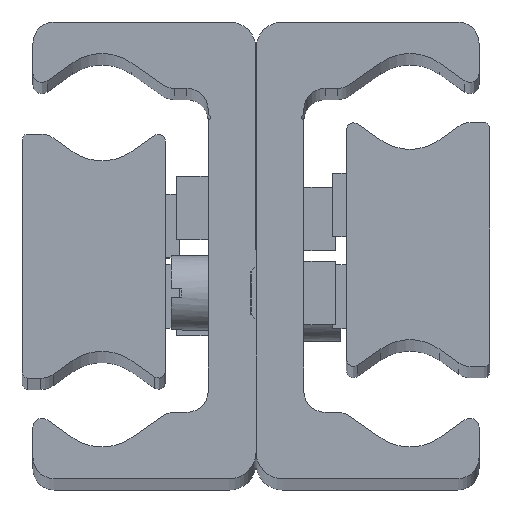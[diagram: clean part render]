
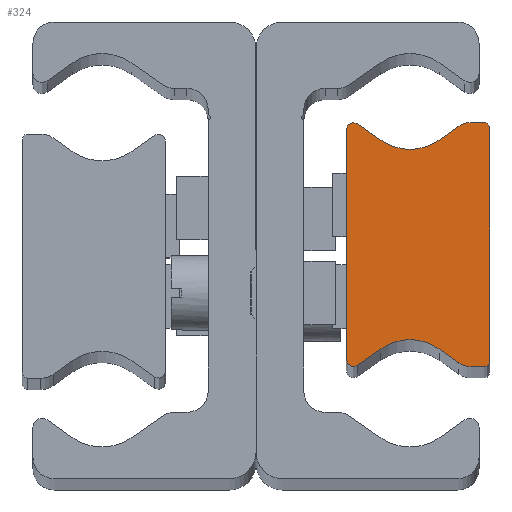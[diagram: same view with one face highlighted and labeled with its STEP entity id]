
A CAD part, top view. The second image highlights one B-rep face of the part: STEP entity #324.
In plain terms, the highlighted planar face has unit normal (0, 0, 1) as drawn and (0, 0, -1) by its records, which use the part's own axes.
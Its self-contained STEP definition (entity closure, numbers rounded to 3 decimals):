
#324 = ADVANCED_FACE( '', ( #725 ), #726, .F. );
#725 = FACE_OUTER_BOUND( '', #1287, .T. );
#726 = PLANE( '', #1288 );
#1287 = EDGE_LOOP( '', ( #2000, #2001, #2002, #2003, #2004, #2005, #2006, #2007, #2008, #2009, #2010, #2011, #2012, #2013, #2014, #2015 ) );
#1288 = AXIS2_PLACEMENT_3D( '', #2016, #2017, #2018 );
#2000 = ORIENTED_EDGE( '', *, *, #3135, .F. );
#2001 = ORIENTED_EDGE( '', *, *, #3136, .F. );
#2002 = ORIENTED_EDGE( '', *, *, #2984, .F. );
#2003 = ORIENTED_EDGE( '', *, *, #3137, .F. );
#2004 = ORIENTED_EDGE( '', *, *, #3138, .F. );
#2005 = ORIENTED_EDGE( '', *, *, #3001, .T. );
#2006 = ORIENTED_EDGE( '', *, *, #3139, .F. );
#2007 = ORIENTED_EDGE( '', *, *, #3140, .F. );
#2008 = ORIENTED_EDGE( '', *, *, #3141, .F. );
#2009 = ORIENTED_EDGE( '', *, *, #3142, .F. );
#2010 = ORIENTED_EDGE( '', *, *, #3143, .F. );
#2011 = ORIENTED_EDGE( '', *, *, #3144, .T. );
#2012 = ORIENTED_EDGE( '', *, *, #3145, .F. );
#2013 = ORIENTED_EDGE( '', *, *, #3146, .F. );
#2014 = ORIENTED_EDGE( '', *, *, #3147, .F. );
#2015 = ORIENTED_EDGE( '', *, *, #3148, .F. );
#2016 = CARTESIAN_POINT( '', ( 0.5, -11., -610. ) );
#2017 = DIRECTION( '', ( 0., 0., 1. ) );
#2018 = DIRECTION( '', ( 1., 0., 0. ) );
#2984 = EDGE_CURVE( '', #3474, #3476, #3477, .T. );
#3001 = EDGE_CURVE( '', #3505, #3503, #3506, .T. );
#3135 = EDGE_CURVE( '', #3732, #3733, #3734, .T. );
#3136 = EDGE_CURVE( '', #3476, #3732, #3735, .T. );
#3137 = EDGE_CURVE( '', #3736, #3474, #3737, .T. );
#3138 = EDGE_CURVE( '', #3505, #3736, #3738, .T. );
#3139 = EDGE_CURVE( '', #3739, #3503, #3740, .T. );
#3140 = EDGE_CURVE( '', #3741, #3739, #3742, .T. );
#3141 = EDGE_CURVE( '', #3743, #3741, #3744, .T. );
#3142 = EDGE_CURVE( '', #3745, #3743, #3746, .T. );
#3143 = EDGE_CURVE( '', #3747, #3745, #3748, .T. );
#3144 = EDGE_CURVE( '', #3747, #3749, #3750, .T. );
#3145 = EDGE_CURVE( '', #3751, #3749, #3752, .T. );
#3146 = EDGE_CURVE( '', #3753, #3751, #3754, .T. );
#3147 = EDGE_CURVE( '', #3755, #3753, #3756, .T. );
#3148 = EDGE_CURVE( '', #3733, #3755, #3757, .T. );
#3474 = VERTEX_POINT( '', #4201 );
#3476 = VERTEX_POINT( '', #4204 );
#3477 = LINE( '', #4205, #4206 );
#3503 = VERTEX_POINT( '', #4240 );
#3505 = VERTEX_POINT( '', #4243 );
#3506 = CIRCLE( '', #4244, 4.763 );
#3732 = VERTEX_POINT( '', #4530 );
#3733 = VERTEX_POINT( '', #4531 );
#3734 = LINE( '', #4532, #4533 );
#3735 = CIRCLE( '', #4534, 0.5 );
#3736 = VERTEX_POINT( '', #4535 );
#3737 = CIRCLE( '', #4536, 2. );
#3738 = LINE( '', #4537, #4538 );
#3739 = VERTEX_POINT( '', #4539 );
#3740 = LINE( '', #4540, #4541 );
#3741 = VERTEX_POINT( '', #4542 );
#3742 = CIRCLE( '', #4543, 0.668 );
#3743 = VERTEX_POINT( '', #4544 );
#3744 = LINE( '', #4545, #4546 );
#3745 = VERTEX_POINT( '', #4547 );
#3746 = CIRCLE( '', #4548, 0.668 );
#3747 = VERTEX_POINT( '', #4549 );
#3748 = LINE( '', #4550, #4551 );
#3749 = VERTEX_POINT( '', #4552 );
#3750 = CIRCLE( '', #4553, 4.763 );
#3751 = VERTEX_POINT( '', #4554 );
#3752 = LINE( '', #4555, #4556 );
#3753 = VERTEX_POINT( '', #4557 );
#3754 = CIRCLE( '', #4558, 2. );
#3755 = VERTEX_POINT( '', #4559 );
#3756 = LINE( '', #4560, #4561 );
#3757 = CIRCLE( '', #4562, 0.5 );
#4201 = CARTESIAN_POINT( '', ( 1.748, 11.5, -610. ) );
#4204 = CARTESIAN_POINT( '', ( 0.5, 11.5, -610. ) );
#4205 = CARTESIAN_POINT( '', ( 1.748, 11.5, -610. ) );
#4206 = VECTOR( '', #5103, 1000. );
#4240 = CARTESIAN_POINT( '', ( 10.232, 9.827, -610. ) );
#4243 = CARTESIAN_POINT( '', ( 4.768, 9.827, -610. ) );
#4244 = AXIS2_PLACEMENT_3D( '', #5122, #5123, #5124 );
#4530 = CARTESIAN_POINT( '', ( 0., 11., -610. ) );
#4531 = CARTESIAN_POINT( '', ( 0., -11., -610. ) );
#4532 = CARTESIAN_POINT( '', ( 0., 11., -610. ) );
#4533 = VECTOR( '', #5308, 1000. );
#4534 = AXIS2_PLACEMENT_3D( '', #5309, #5310, #5311 );
#4535 = CARTESIAN_POINT( '', ( 2.895, 11.138, -610. ) );
#4536 = AXIS2_PLACEMENT_3D( '', #5312, #5313, #5314 );
#4537 = CARTESIAN_POINT( '', ( 4.768, 9.827, -610. ) );
#4538 = VECTOR( '', #5315, 1000. );
#4539 = CARTESIAN_POINT( '', ( 12.449, 11.379, -610. ) );
#4540 = CARTESIAN_POINT( '', ( 12.449, 11.379, -610. ) );
#4541 = VECTOR( '', #5316, 1000. );
#4542 = CARTESIAN_POINT( '', ( 13.5, 10.832, -610. ) );
#4543 = AXIS2_PLACEMENT_3D( '', #5317, #5318, #5319 );
#4544 = CARTESIAN_POINT( '', ( 13.5, -10.832, -610. ) );
#4545 = CARTESIAN_POINT( '', ( 13.5, -10.832, -610. ) );
#4546 = VECTOR( '', #5320, 1000. );
#4547 = CARTESIAN_POINT( '', ( 12.449, -11.379, -610. ) );
#4548 = AXIS2_PLACEMENT_3D( '', #5321, #5322, #5323 );
#4549 = CARTESIAN_POINT( '', ( 10.232, -9.827, -610. ) );
#4550 = CARTESIAN_POINT( '', ( 10.232, -9.827, -610. ) );
#4551 = VECTOR( '', #5324, 1000. );
#4552 = CARTESIAN_POINT( '', ( 4.768, -9.827, -610. ) );
#4553 = AXIS2_PLACEMENT_3D( '', #5325, #5326, #5327 );
#4554 = CARTESIAN_POINT( '', ( 2.895, -11.138, -610. ) );
#4555 = CARTESIAN_POINT( '', ( 2.895, -11.138, -610. ) );
#4556 = VECTOR( '', #5328, 1000. );
#4557 = CARTESIAN_POINT( '', ( 1.748, -11.5, -610. ) );
#4558 = AXIS2_PLACEMENT_3D( '', #5329, #5330, #5331 );
#4559 = CARTESIAN_POINT( '', ( 0.5, -11.5, -610. ) );
#4560 = CARTESIAN_POINT( '', ( 0.5, -11.5, -610. ) );
#4561 = VECTOR( '', #5332, 1000. );
#4562 = AXIS2_PLACEMENT_3D( '', #5333, #5334, #5335 );
#5103 = DIRECTION( '', ( -1., 0., 0. ) );
#5122 = CARTESIAN_POINT( '', ( 7.5, 13.729, -610. ) );
#5123 = DIRECTION( '', ( 0., 0., 1. ) );
#5124 = DIRECTION( '', ( 1., 0., 0. ) );
#5308 = DIRECTION( '', ( 0., -1., 0. ) );
#5309 = CARTESIAN_POINT( '', ( 0.5, 11., -610. ) );
#5310 = DIRECTION( '', ( 0., 0., 1. ) );
#5311 = DIRECTION( '', ( 1., 0., 0. ) );
#5312 = CARTESIAN_POINT( '', ( 1.748, 9.5, -610. ) );
#5313 = DIRECTION( '', ( 0., 0., 1. ) );
#5314 = DIRECTION( '', ( 1., 0., 0. ) );
#5315 = DIRECTION( '', ( -0.819, 0.574, 0. ) );
#5316 = DIRECTION( '', ( -0.819, -0.574, 0. ) );
#5317 = CARTESIAN_POINT( '', ( 12.832, 10.832, -610. ) );
#5318 = DIRECTION( '', ( 0., 0., 1. ) );
#5319 = DIRECTION( '', ( 1., 0., 0. ) );
#5320 = DIRECTION( '', ( 0., 1., 0. ) );
#5321 = CARTESIAN_POINT( '', ( 12.832, -10.832, -610. ) );
#5322 = DIRECTION( '', ( 0., 0., 1. ) );
#5323 = DIRECTION( '', ( 1., 0., 0. ) );
#5324 = DIRECTION( '', ( 0.819, -0.574, 0. ) );
#5325 = CARTESIAN_POINT( '', ( 7.5, -13.729, -610. ) );
#5326 = DIRECTION( '', ( 0., 0., 1. ) );
#5327 = DIRECTION( '', ( 1., 0., 0. ) );
#5328 = DIRECTION( '', ( 0.819, 0.574, 0. ) );
#5329 = CARTESIAN_POINT( '', ( 1.748, -9.5, -610. ) );
#5330 = DIRECTION( '', ( 0., 0., 1. ) );
#5331 = DIRECTION( '', ( 1., 0., 0. ) );
#5332 = DIRECTION( '', ( 1., 0., 0. ) );
#5333 = CARTESIAN_POINT( '', ( 0.5, -11., -610. ) );
#5334 = DIRECTION( '', ( 0., 0., 1. ) );
#5335 = DIRECTION( '', ( 1., 0., 0. ) );
